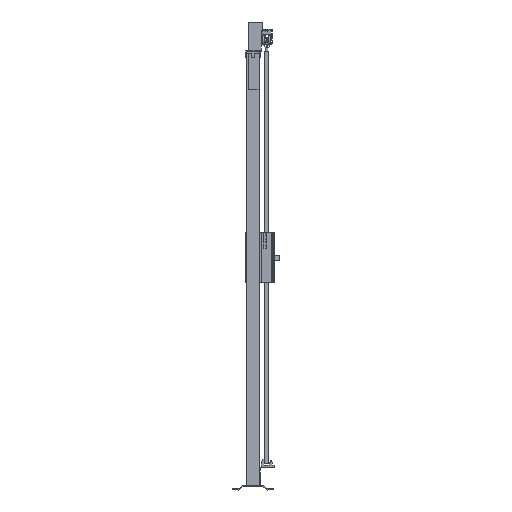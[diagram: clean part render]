
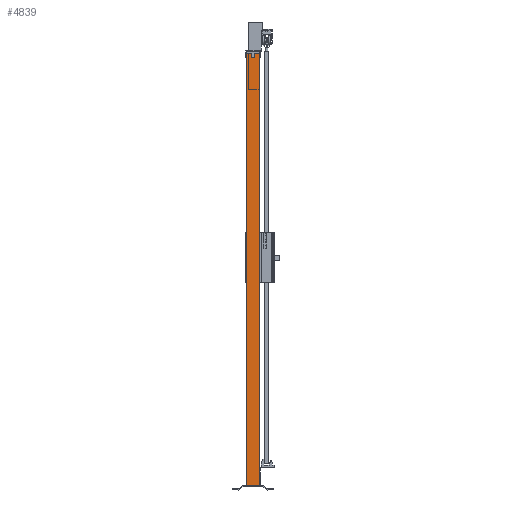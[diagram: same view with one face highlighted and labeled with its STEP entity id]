
A CAD part, left-side view. The second image highlights one B-rep face of the part: STEP entity #4839.
In plain terms, the highlighted planar face has unit normal (-1, 0, 0).
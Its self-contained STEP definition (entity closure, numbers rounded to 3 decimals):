
#490=FACE_OUTER_BOUND('',#837,.T.);
#837=EDGE_LOOP('',(#3107,#3108,#3109,#3110));
#1241=VERTEX_POINT('',#10098);
#1242=VERTEX_POINT('',#10100);
#1245=VERTEX_POINT('',#10107);
#1246=VERTEX_POINT('',#10109);
#1967=EDGE_CURVE('',#1241,#1242,#5607,.T.);
#1971=EDGE_CURVE('',#1245,#1246,#5611,.T.);
#1973=EDGE_CURVE('',#1242,#1245,#5613,.T.);
#1975=EDGE_CURVE('',#1241,#1246,#5615,.T.);
#3107=ORIENTED_EDGE('',*,*,#1975,.T.);
#3108=ORIENTED_EDGE('',*,*,#1971,.F.);
#3109=ORIENTED_EDGE('',*,*,#1973,.F.);
#3110=ORIENTED_EDGE('',*,*,#1967,.F.);
#4529=PLANE('',#7188);
#4839=ADVANCED_FACE('',(#490),#4529,.F.);
#5607=LINE('',#10101,#6468);
#5611=LINE('',#10110,#6472);
#5613=LINE('',#10113,#6474);
#5615=LINE('',#10116,#6476);
#6468=VECTOR('',#8039,1.);
#6472=VECTOR('',#8045,1.);
#6474=VECTOR('',#8049,1.);
#6476=VECTOR('',#8053,1.);
#7188=AXIS2_PLACEMENT_3D('',#10115,#8051,#8052);
#8039=DIRECTION('',(0.,-1.,0.));
#8045=DIRECTION('',(0.,1.,0.));
#8049=DIRECTION('',(0.,0.,-1.));
#8051=DIRECTION('center_axis',(1.,0.,0.));
#8052=DIRECTION('ref_axis',(0.,0.,-1.));
#8053=DIRECTION('',(0.,0.,-1.));
#10098=CARTESIAN_POINT('',(-30.,30.,2020.));
#10100=CARTESIAN_POINT('',(-30.,-30.,2020.));
#10101=CARTESIAN_POINT('',(-30.,0.,2020.));
#10107=CARTESIAN_POINT('',(-30.,-30.,20.));
#10109=CARTESIAN_POINT('',(-30.,30.,20.));
#10110=CARTESIAN_POINT('',(-30.,0.,20.));
#10113=CARTESIAN_POINT('',(-30.,-30.,1020.));
#10115=CARTESIAN_POINT('Origin',(-30.,0.,
1020.));
#10116=CARTESIAN_POINT('',(-30.,30.,1020.));
